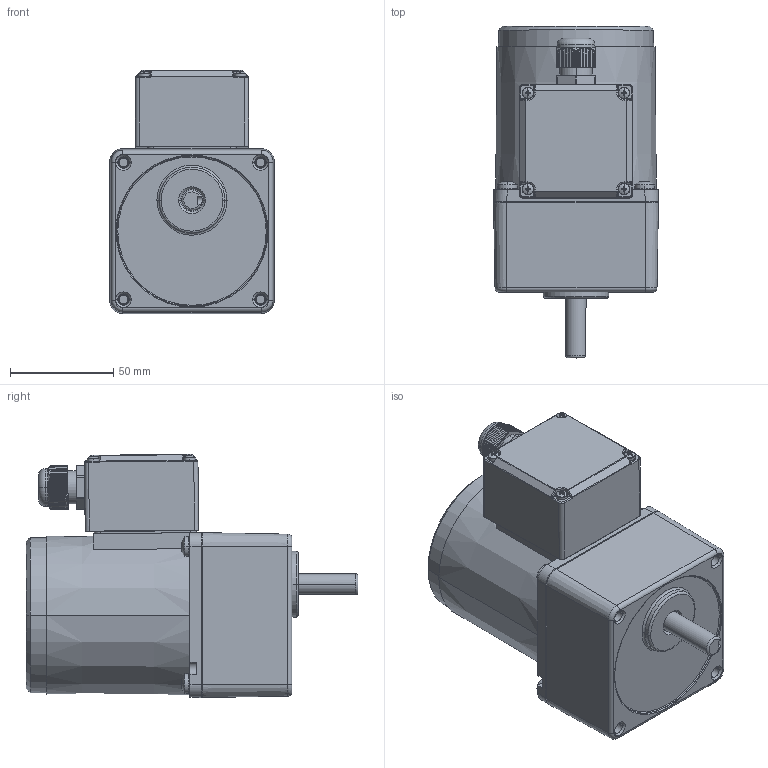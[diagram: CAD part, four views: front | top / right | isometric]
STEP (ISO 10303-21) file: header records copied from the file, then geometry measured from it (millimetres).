
FILE_DESCRIPTION((''),'2;1');
FILE_NAME('4IK25GN-CT-4GN150K-55_ASM','2018-07-21T',('Administrator'),(''),'PRO/ENGINEER BY PARAMETRIC TECHNOLOGY CORPORATION, 2007170','PRO/ENGINEER BY PARAMETRIC TECHNOLOGY CORPORATION, 2007170','');
FILE_SCHEMA(('CONFIG_CONTROL_DESIGN'));
Length unit declared in the file: millimetre
Products named in the file (9): 4IK25GN-CT; M3; PRT0011; PRT0012; PRT0013; PRT0014; SJQ; M5; 4IK25GN-CT-4GN150K-55_ASM
Assembly tree (11 placements, depth 2):
  4IK25GN-CT-4GN150K-55_ASM
    4IK25GN-CT
    M3
    PRT0011
    PRT0012
    PRT0013
    PRT0014
    SJQ
    M5  x4
Bounding box: 80 x 161 x 117.95 mm (x, y, z)
Volume: 516056.4 mm3; surface area: 106855.9 mm2
Topology: 11 solids, 12 shells, 1694 faces, 4430 edges, 2764 vertices
Faces by surface type: cone 736, cylinder 573, plane 274, torus 71, sphere 24, bspline 16
Entity records: 38676 total; most frequent: CARTESIAN_POINT 9019, DIRECTION 6733, ORIENTED_EDGE 6048, EDGE_CURVE 3024, AXIS2_PLACEMENT_3D 2793, VERTEX_POINT 1909, CIRCLE 1617, EDGE_LOOP 1229
